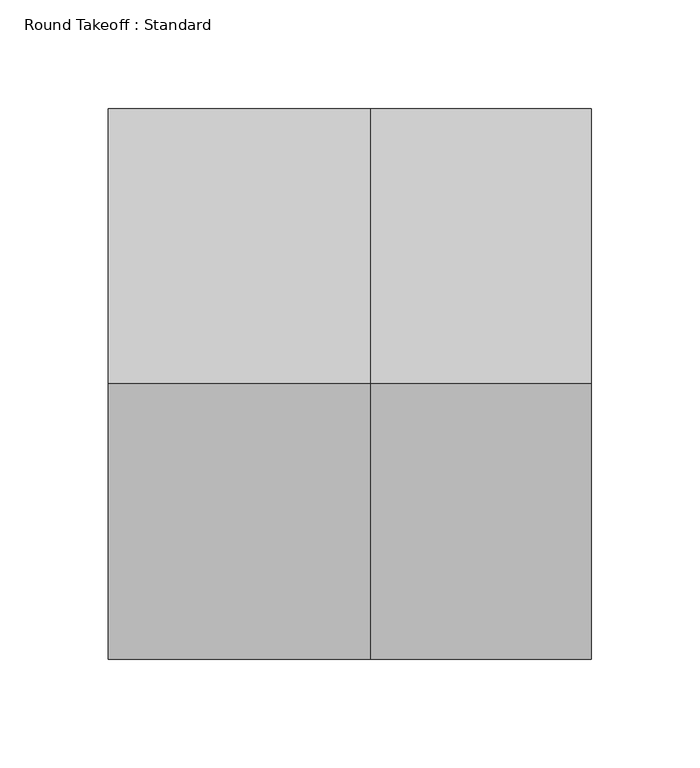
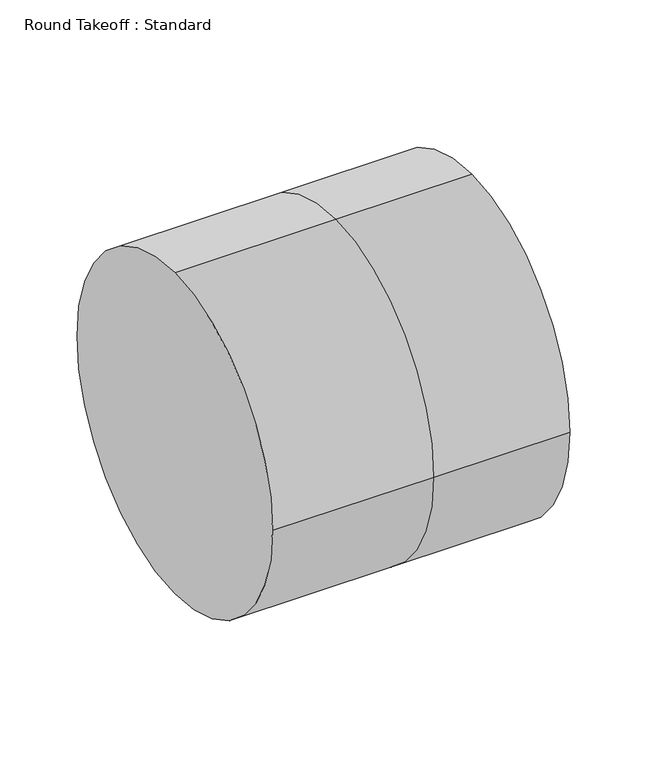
"""IFC4 building model written with IfcOpenShell, lengths in millimetres: duct fitting geometry, Round Takeoff : Standard."""

from ifc_helpers import new_model, si_unit, frame, origin, place, context, project, spatial, circle_curve, source, transform, mapped, element, save
from ifc_brep_helpers import plane_surface, cylinder_surface, advanced_brep


def round_takeoff_standard_c386a54e(model_context):
    return source(origin(), model_context, "Body", "AdvancedBrep", [
        advanced_brep(
        [(101.6, 0.0, 127.0), (101.6, -127.0, 0.0), (101.6, 0.0, -127.0), (101.6, 127.0, 0.0), (0.0, 0.0, 127.0), (0.0, -127.0, 0.0), (0.0, 0.0, -127.0), (0.0, 127.0, 0.0), (-120.904, 0.0, 127.0), (-120.904, 127.0, 0.0), (-120.904, 0.0, -127.0), (-120.904, -127.0, 0.0)],
        [
            (0, 1, circle_curve(frame((101.6, 0.0, 0.0), z_axis=(1.0, 0.0, 0.0), x_axis=(0.0, -1.0, 0.0)), 127.0)),
            (1, 2, circle_curve(frame((101.6, 0.0, 0.0), z_axis=(1.0, 0.0, 0.0), x_axis=(0.0, -1.0, 0.0)), 127.0)),
            (2, 3, circle_curve(frame((101.6, 0.0, 0.0), z_axis=(1.0, 0.0, 0.0), x_axis=(0.0, -1.0, 0.0)), 127.0)),
            (3, 0, circle_curve(frame((101.6, 0.0, 0.0), z_axis=(1.0, 0.0, 0.0), x_axis=(0.0, -1.0, 0.0)), 127.0)),
            (0, 4),
            (4, 5, circle_curve(frame((0.0, 0.0, 0.0), z_axis=(1.0, 0.0, 0.0), x_axis=(0.0, -1.0, 0.0)), 127.0)),
            (5, 1),
            (5, 6, circle_curve(frame((0.0, 0.0, 0.0), z_axis=(1.0, 0.0, 0.0), x_axis=(0.0, -1.0, 0.0)), 127.0)),
            (6, 2),
            (6, 7, circle_curve(frame((0.0, 0.0, 0.0), z_axis=(1.0, 0.0, 0.0), x_axis=(0.0, -1.0, 0.0)), 127.0)),
            (7, 3),
            (7, 4, circle_curve(frame((0.0, 0.0, 0.0), z_axis=(1.0, 0.0, 0.0), x_axis=(0.0, -1.0, 0.0)), 127.0)),
            (8, 9, circle_curve(frame((-120.904, 0.0, 0.0), z_axis=(-1.0, 0.0, 0.0), x_axis=(0.0, -1.0, 0.0)), 127.0)),
            (9, 10, circle_curve(frame((-120.904, 0.0, 0.0), z_axis=(-1.0, 0.0, 0.0), x_axis=(0.0, -1.0, 0.0)), 127.0)),
            (10, 11, circle_curve(frame((-120.904, 0.0, 0.0), z_axis=(-1.0, 0.0, 0.0), x_axis=(0.0, -1.0, 0.0)), 127.0)),
            (11, 8, circle_curve(frame((-120.904, 0.0, 0.0), z_axis=(-1.0, 0.0, 0.0), x_axis=(0.0, -1.0, 0.0)), 127.0)),
            (11, 5),
            (4, 8),
            (10, 6),
            (9, 7),
        ],
        [
            plane_surface(frame((101.6, 0.0, 0.0), z_axis=(1.0, 0.0, 0.0), x_axis=(0.0, 0.0, 1.0))),
            cylinder_surface(frame((0.0, 0.0, 0.0), z_axis=(-1.0, 0.0, 0.0), x_axis=(0.0, -1.0, 0.0)), 127.0),
            plane_surface(frame((-120.904, 0.0, 0.0), z_axis=(-1.0, 0.0, 0.0), x_axis=(0.0, 0.0, 1.0))),
            cylinder_surface(frame((-120.904, 0.0, 0.0), z_axis=(-1.0, 0.0, 0.0), x_axis=(0.0, -1.0, 0.0)), 127.0),
        ],
        [
            (0, [[1, 2, 3, 4]]),
            (1, [[5, 6, 7, -1]]),
            (1, [[-7, 8, 9, -2]]),
            (1, [[-9, 10, 11, -3]]),
            (1, [[-11, 12, -5, -4]]),
            (2, [[13, 14, 15, 16]]),
            (3, [[17, -6, 18, -16]]),
            (3, [[19, -8, -17, -15]]),
            (3, [[20, -10, -19, -14]]),
            (3, [[-18, -12, -20, -13]]),
        ],
    ),
    ])


if __name__ == "__main__":
    model = new_model("IFC4")
    model_context = context("Model", 3, world=origin())
    ifc_project = project(units=[si_unit("LENGTHUNIT", "METRE", prefix="MILLI")], contexts=[model_context])
    site = spatial("IfcSite", under=ifc_project)
    building = spatial("IfcBuilding", under=site)
    placement = place(None, origin())
    round_takeoff_standard_shape = round_takeoff_standard_c386a54e(model_context)
    element("IfcDuctFitting", 1, ObjectType="Round Takeoff : Standard", at=placement, inside=building, context=model_context, shape_type="MappedRepresentation", body=[
        mapped(round_takeoff_standard_shape, transform((0.0, 0.0, 0.0), x_axis=(1.0, 0.0, 0.0), y_axis=(0.0, 1.0, 0.0), z_axis=(0.0, 0.0, 1.0))),
    ])
    save(model, "model.ifc")
